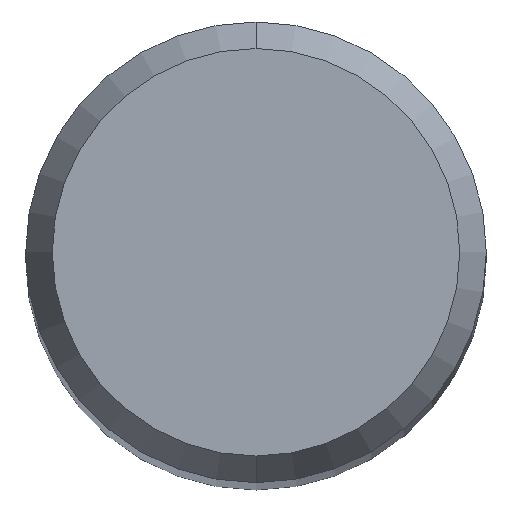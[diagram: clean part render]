
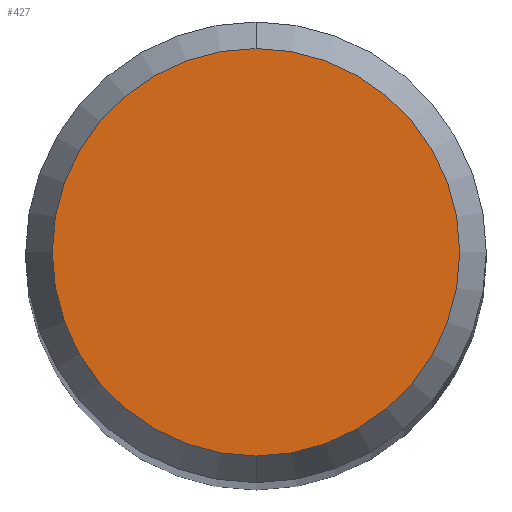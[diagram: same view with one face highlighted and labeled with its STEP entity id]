
A CAD part, top view. The second image highlights one B-rep face of the part: STEP entity #427.
In plain terms, the highlighted planar face has unit normal (0, 0, 1).
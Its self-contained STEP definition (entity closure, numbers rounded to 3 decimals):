
#273=VERTEX_POINT('',#616);
#331=EDGE_CURVE('',#273,#443,#680,.T.);
#427=ADVANCED_FACE('',(#788),#789,.T.);
#443=VERTEX_POINT('',#806);
#491=EDGE_CURVE('',#443,#273,#856,.T.);
#616=CARTESIAN_POINT('',(0.,-3.538,0.0));
#680=CIRCLE('',#1203,3.538);
#788=FACE_OUTER_BOUND('',#1418,.T.);
#789=PLANE('',#1419);
#806=CARTESIAN_POINT('',(0.0,3.538,0.0));
#856=CIRCLE('',#1526,3.538);
#1203=AXIS2_PLACEMENT_3D('',#1748,#1749,#1750);
#1418=EDGE_LOOP('',(#1886,#1887));
#1419=AXIS2_PLACEMENT_3D('',#1888,#1889,#1890);
#1526=AXIS2_PLACEMENT_3D('',#1946,#1947,#1948);
#1748=CARTESIAN_POINT('',(0.0,0.0,0.0));
#1749=DIRECTION('',(0.0,0.0,-1.0));
#1750=DIRECTION('',(0.0,1.0,0.0));
#1886=ORIENTED_EDGE('',*,*,#491,.F.);
#1887=ORIENTED_EDGE('',*,*,#331,.F.);
#1888=CARTESIAN_POINT('',(0.0,1.769,0.0));
#1889=DIRECTION('',(-0.0,0.0,1.0));
#1890=DIRECTION('',(0.0,-1.0,0.0));
#1946=CARTESIAN_POINT('',(0.0,0.0,0.0));
#1947=DIRECTION('',(0.0,0.0,-1.0));
#1948=DIRECTION('',(0.0,1.0,0.0));
